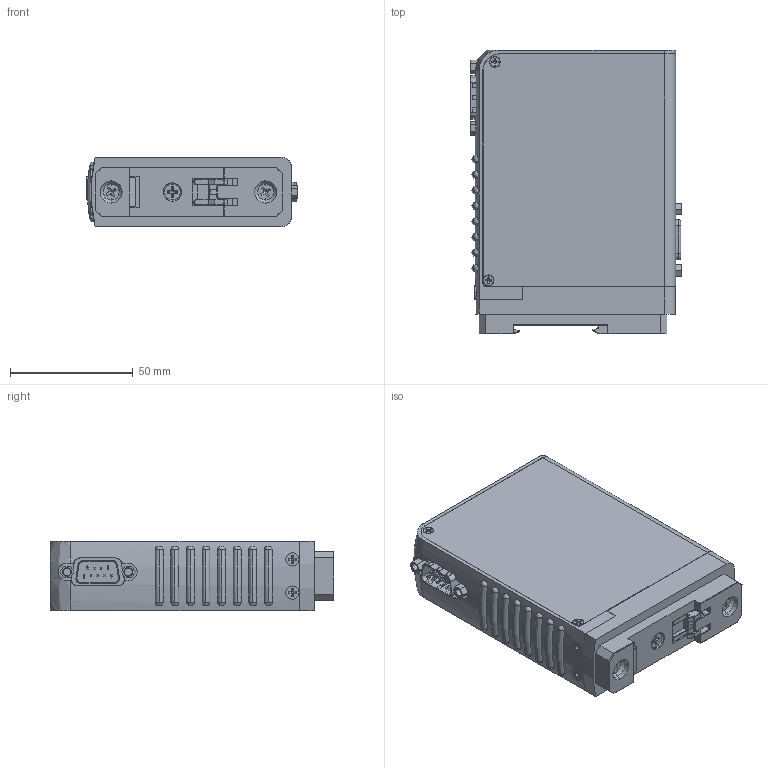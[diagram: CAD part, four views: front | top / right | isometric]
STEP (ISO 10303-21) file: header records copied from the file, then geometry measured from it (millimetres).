
FILE_DESCRIPTION (( 'STEP AP203' ), '1' );
FILE_NAME ('GF120XHT-SX-REMOTE_ELECTRONICS.STEP', '2023-11-17T14:48:04', ( '' ), ( '' ), 'SwSTEP 2.0', 'SolidWorks 2020', '' );
FILE_SCHEMA (( 'CONFIG_CONTROL_DESIGN' ));
Products named in the file (1): GF120XHT-SX-REMOTE_ELECTRONICS
Bounding box: 85.95 x 115.62 x 28.45 mm (x, y, z)
Volume: 55474.3 mm3; surface area: 72363.4 mm2
Topology: 28 solids, 28 shells, 1632 faces, 4371 edges, 2854 vertices
Faces by surface type: plane 791, cylinder 441, cone 232, bspline 139, torus 25, sphere 4
Entity records: 77043 total; most frequent: CARTESIAN_POINT 38408, ORIENTED_EDGE 8688, DIRECTION 6983, EDGE_CURVE 4344, VERTEX_POINT 2854, AXIS2_PLACEMENT_3D 2332, LINE 2319, VECTOR 2319
